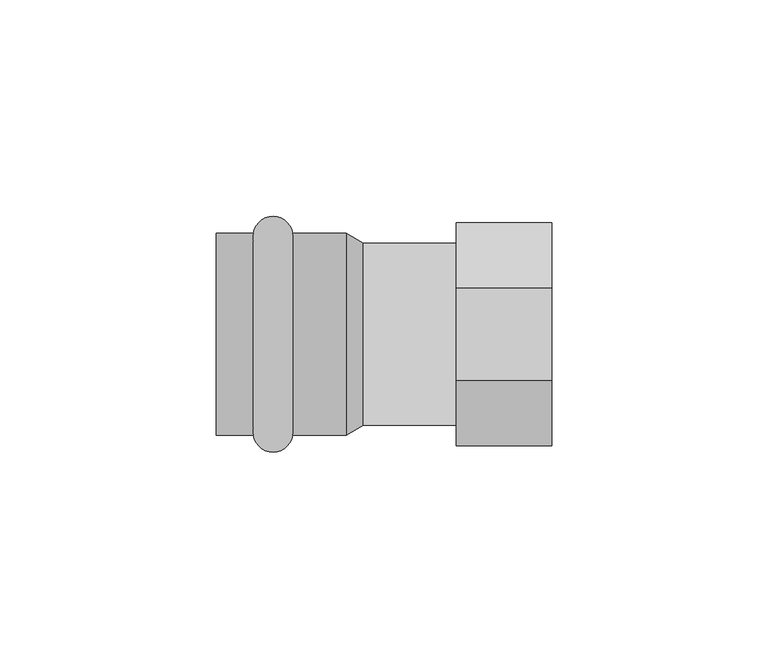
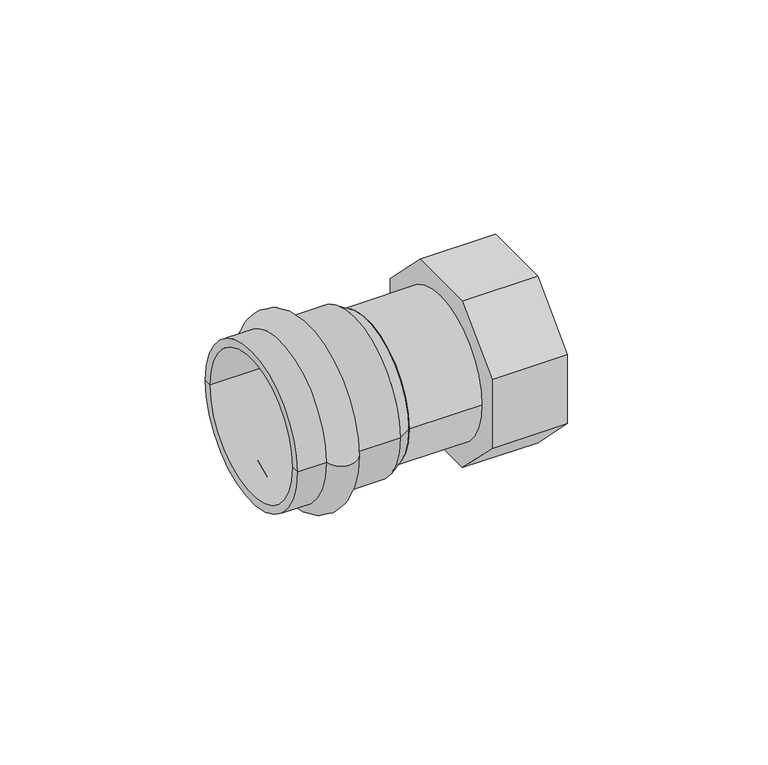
"""IFC4 building model written with IfcOpenShell, lengths in millimetres: pipe fitting geometry, VALTEC_VTi.902.I_Соединитель прямой с переходом на внутреннюю резьбу_Нержавеющая сталь : VTi.902.I."""

from ifc_helpers import new_model, si_unit, point, frame, origin, origin_2d, place, context, project, spatial, polyline, circle_curve, ellipse_curve, trimmed, segment, composite_curve, outline, extrude, source, transform, mapped, element, save
from ifc_brep_helpers import plane_surface, cylinder_surface, revolved_surface, advanced_brep


def pipe_fitting_f54811bb(model_context):
    return source(origin(), model_context, "Body", "SolidModel", [
        advanced_brep(
        [(-57.9464272, -23.35, 0.0), (-57.9464272, 23.35, 0.0), (-48.8535728, 23.35, 0.0), (-48.8535728, -23.35, 0.0), (-66.5, -23.35, 0.0), (-66.5, 23.35, 0.0), (-66.5, -21.0, 0.0), (-66.5, 21.0, 0.0), (-36.5, -21.0, 0.0), (-36.5, 21.0, 0.0), (-36.5, -23.35, 0.0), (-36.5, 23.35, 0.0)],
        [
            (0, 1, circle_curve(frame((-57.9464272, 0.0, 0.0), z_axis=(1.0, 0.0, 0.0), x_axis=(0.0, 1.0, 0.0)), 23.35)),
            (1, 2, circle_curve(frame((-53.4, 22.65, 0.0), z_axis=(0.0, 0.0, -1.0), x_axis=(1.0, 0.0, 0.0)), 4.6)),
            (2, 3, circle_curve(frame((-48.8535728, 0.0, 0.0), z_axis=(-1.0, 0.0, 0.0), x_axis=(0.0, 1.0, 0.0)), 23.35)),
            (3, 0, circle_curve(frame((-53.4, -22.65, 0.0), z_axis=(0.0, 0.0, -1.0), x_axis=(1.0, 0.0, 0.0)), 4.6)),
            (1, 0, circle_curve(frame((-57.9464272, 0.0, 0.0), z_axis=(1.0, 0.0, 0.0), x_axis=(0.0, 1.0, 0.0)), 23.35)),
            (3, 2, circle_curve(frame((-48.8535728, 0.0, 0.0), z_axis=(-1.0, 0.0, 0.0), x_axis=(0.0, 1.0, 0.0)), 23.35)),
            (4, 5, circle_curve(frame((-66.5, 0.0, 0.0), z_axis=(1.0, 0.0, 0.0), x_axis=(0.0, 1.0, 0.0)), 23.35)),
            (5, 1),
            (0, 4),
            (5, 4, circle_curve(frame((-66.5, 0.0, 0.0), z_axis=(1.0, 0.0, 0.0), x_axis=(0.0, 1.0, 0.0)), 23.35)),
            (6, 7, circle_curve(frame((-66.5, 0.0, 0.0), z_axis=(1.0, 0.0, 0.0), x_axis=(0.0, 1.0, 0.0)), 21.0)),
            (7, 5),
            (4, 6),
            (7, 6, circle_curve(frame((-66.5, 0.0, 0.0), z_axis=(1.0, 0.0, 0.0), x_axis=(0.0, 1.0, 0.0)), 21.0)),
            (8, 9, circle_curve(frame((-36.5, 0.0, 0.0), z_axis=(1.0, 0.0, 0.0), x_axis=(0.0, 1.0, 0.0)), 21.0)),
            (9, 7),
            (6, 8),
            (9, 8, circle_curve(frame((-36.5, 0.0, 0.0), z_axis=(1.0, 0.0, 0.0), x_axis=(0.0, 1.0, 0.0)), 21.0)),
            (10, 11, circle_curve(frame((-36.5, 0.0, 0.0), z_axis=(1.0, 0.0, 0.0), x_axis=(0.0, 1.0, 0.0)), 23.35)),
            (11, 9),
            (8, 10),
            (11, 10, circle_curve(frame((-36.5, 0.0, 0.0), z_axis=(1.0, 0.0, 0.0), x_axis=(0.0, 1.0, 0.0)), 23.35)),
            (2, 11),
            (10, 3),
        ],
        [
            revolved_surface(trimmed(ellipse_curve(frame((-53.4, 22.65, 0.0), z_axis=(0.0, 0.0, 1.0), x_axis=(1.0, 0.0, 0.0)), 4.6, 4.6), [point((-48.8535728, 23.35, 0.0))], [point((-57.9464272, 23.35, 0.0))], True, "CARTESIAN"), (-70.0364426, 0.0, 0.0), (-1.0, 0.0, 0.0)),
            cylinder_surface(frame((-70.0364426, 0.0, 0.0), z_axis=(-1.0, 0.0, 0.0), x_axis=(0.0, 1.0, 0.0)), 23.35),
            plane_surface(frame((-66.5, 0.0, 0.0), z_axis=(-1.0, 0.0, 0.0), x_axis=(0.0, 1.0, 0.0))),
            revolved_surface(polyline([(-66.5, 21.0, 0.0), (-36.5, 21.0, 0.0)]), (-70.0364426, 0.0, 0.0), (-1.0, 0.0, 0.0)),
            plane_surface(frame((-36.5, 0.0, 0.0), z_axis=(1.0, 0.0, 0.0), x_axis=(0.0, 1.0, 0.0))),
        ],
        [
            (0, [[1, 2, 3, 4]]),
            (0, [[5, -4, 6, -2]]),
            (1, [[7, 8, -1, 9]]),
            (1, [[10, -9, -5, -8]]),
            (2, [[11, 12, -7, 13]]),
            (2, [[14, -13, -10, -12]]),
            (3, [[15, 16, -11, 17]]),
            (3, [[18, -17, -14, -16]]),
            (4, [[19, 20, -15, 21]]),
            (4, [[22, -21, -18, -20]]),
            (1, [[-3, 23, -19, 24]]),
            (1, [[-6, -24, -22, -23]]),
        ],
    ),
        extrude(outline(polyline([(10.6659992, 25.75), (25.75, 10.6659992), (25.75, -10.6659992), (10.6659992, -25.75), (-10.6659992, -25.75), (-25.75, -10.6659992), (-25.75, 10.6659992), (-10.6659992, 25.75), (10.6659992, 25.75)])), frame((-11.0, 0.0, 0.0), z_axis=(1.0, 0.0, 0.0), x_axis=(0.0, 1.0, 0.0)), (0.0, 0.0, 1.0), 22.0),
        extrude(outline(polyline([(10.6659992, 25.75), (25.75, 10.6659992), (25.75, -10.6659992), (10.6659992, -25.75), (-10.6659992, -25.75), (-25.75, -10.6659992), (-25.75, 10.6659992), (-10.6659992, 25.75), (10.6659992, 25.75)]), holes=[composite_curve([segment(trimmed(circle_curve(origin_2d(), 20.0), [point((-20.0, 0.0))], [point((20.0, 0.0))], True, "CARTESIAN"), True, "CONTINUOUS"), segment(trimmed(circle_curve(origin_2d(), 20.0), [point((20.0, 0.0))], [point((-20.0, 0.0))], True, "CARTESIAN"), True, "CONTINUOUS")], self_intersect=False)]), frame((-11.0, 0.0, 0.0), z_axis=(1.0, 0.0, 0.0), x_axis=(0.0, 1.0, 0.0)), (0.0, 0.0, 1.0), 22.0),
        extrude(outline(composite_curve([segment(trimmed(circle_curve(origin_2d(), 21.0), [point((-21.0, 0.0))], [point((21.0, 0.0))], False, "CARTESIAN"), True, "CONTINUOUS"), segment(trimmed(circle_curve(origin_2d(), 21.0), [point((21.0, 0.0))], [point((-21.0, 0.0))], False, "CARTESIAN"), True, "CONTINUOUS")], self_intersect=False)), frame((-32.5, 0.0, 0.0), z_axis=(1.0, 0.0, 0.0), x_axis=(0.0, 1.0, 0.0)), (0.0, 0.0, 1.0), 24.0),
        advanced_brep(
        [(-32.5, -21.0, 0.0), (-32.5, 21.0, 0.0), (-36.5, -23.35, 0.0), (-36.5, 23.35, 0.0)],
        [
            (0, 1, circle_curve(frame((-32.5, 0.0, 0.0), z_axis=(1.0, 0.0, 0.0), x_axis=(0.0, -1.0, 0.0)), 21.0)),
            (1, 0, circle_curve(frame((-32.5, 0.0, 0.0), z_axis=(1.0, 0.0, 0.0), x_axis=(0.0, 1.0, 0.0)), 21.0)),
            (2, 3, circle_curve(frame((-36.5, 0.0, 0.0), z_axis=(-1.0, 0.0, 0.0), x_axis=(0.0, 1.0, 0.0)), 23.35)),
            (3, 2, circle_curve(frame((-36.5, 0.0, 0.0), z_axis=(-1.0, 0.0, 0.0), x_axis=(0.0, -1.0, 0.0)), 23.35)),
            (3, 1),
            (0, 2),
        ],
        [
            plane_surface(frame((-32.5, 0.0, 0.0), z_axis=(1.0, 0.0, 0.0), x_axis=(0.0, 0.0, -1.0))),
            plane_surface(frame((-36.5, 0.0, 0.0), z_axis=(-1.0, 0.0, 0.0), x_axis=(0.0, 0.0, -1.0))),
            revolved_surface(polyline([(-32.5, -21.000000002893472, 0.0), (-36.5, -23.35, 0.0)]), (3.2446809, 0.0, 0.0), (-1.0, 0.0, 0.0)),
            revolved_surface(polyline([(-32.5, 21.000000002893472, 0.0), (-36.5, 23.35, 0.0)]), (3.2446809, 0.0, 0.0), (-1.0, 0.0, 0.0)),
        ],
        [
            (0, [[1, 2]]),
            (1, [[3, 4]]),
            (2, [[-4, 5, -1, 6]]),
            (3, [[-3, -6, -2, -5]]),
        ],
    ),
    ])


if __name__ == "__main__":
    model = new_model("IFC4")
    model_context = context("Model", 3, world=origin())
    ifc_project = project(units=[si_unit("LENGTHUNIT", "METRE", prefix="MILLI")], contexts=[model_context])
    site = spatial("IfcSite", under=ifc_project)
    building = spatial("IfcBuilding", under=site)
    placement = place(None, origin())
    pipe_fitting_shape = pipe_fitting_f54811bb(model_context)
    element("IfcPipeFitting", 1, ObjectType="VALTEC_VTi.902.I_Соединитель прямой с переходом на внутреннюю резьбу_Нержавеющая сталь : VTi.902.I", at=placement, inside=building, context=model_context, shape_type="MappedRepresentation", body=[
        mapped(pipe_fitting_shape, transform((0.0, 0.0, 0.0), x_axis=(1.0, 0.0, 0.0), y_axis=(0.0, 1.0, 0.0), z_axis=(0.0, 0.0, 1.0))),
    ])
    save(model, "model.ifc")
